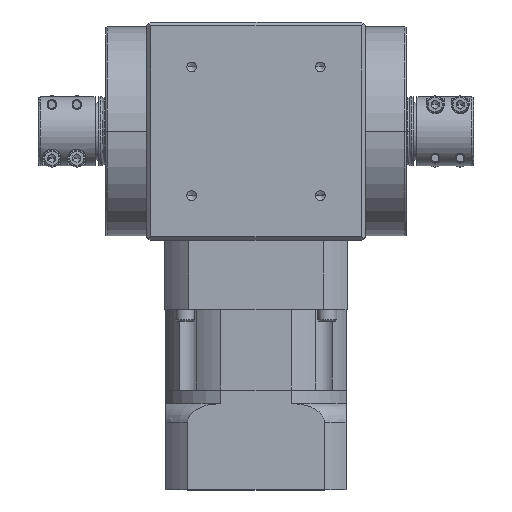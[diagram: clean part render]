
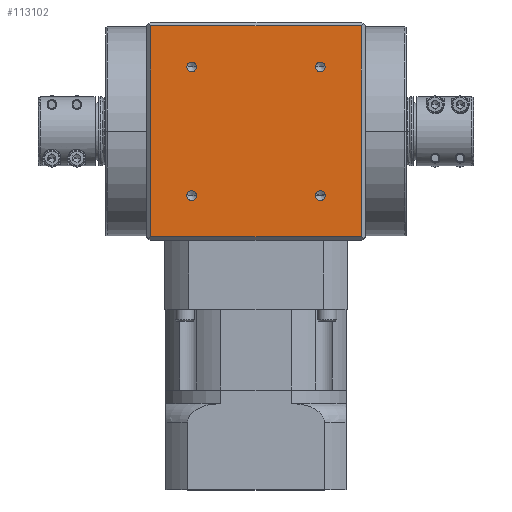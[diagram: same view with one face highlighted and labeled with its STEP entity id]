
A CAD part, top view. The second image highlights one B-rep face of the part: STEP entity #113102.
In plain terms, the highlighted planar face has unit normal (0, 0, 1).
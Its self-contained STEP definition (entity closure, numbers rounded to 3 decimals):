
#334 = EDGE_LOOP ( 'NONE', ( #30027, #54110 ) ) ;
#852 = VERTEX_POINT ( 'NONE', #15056 ) ;
#2384 = VERTEX_POINT ( 'NONE', #109933 ) ;
#2756 = CARTESIAN_POINT ( 'NONE',  ( 33.588, 224.188, 57. ) ) ;
#3900 = CARTESIAN_POINT ( 'NONE',  ( 33.588, 159.512, 57. ) ) ;
#5268 = PLANE ( 'NONE',  #76331 ) ;
#7550 = CIRCLE ( 'NONE', #77358, 2.5 ) ;
#9246 = CIRCLE ( 'NONE', #9945, 2.5 ) ;
#9945 = AXIS2_PLACEMENT_3D ( 'NONE', #30416, #95466, #39792 ) ;
#13232 = DIRECTION ( 'NONE',  ( 0., -1., 0. ) ) ;
#14429 = CARTESIAN_POINT ( 'NONE',  ( 33.588, 159.512, 57. ) ) ;
#14575 = VECTOR ( 'NONE', #76866, 1000. ) ;
#15056 = CARTESIAN_POINT ( 'NONE',  ( -33.588, 157.012, 57. ) ) ;
#15129 = CARTESIAN_POINT ( 'NONE',  ( 54.844, 248.1, 57. ) ) ;
#17346 = DIRECTION ( 'NONE',  ( 0., 1., 0. ) ) ;
#17490 = LINE ( 'NONE', #95550, #14575 ) ;
#19324 = AXIS2_PLACEMENT_3D ( 'NONE', #99307, #43593, #108632 ) ;
#19478 = VERTEX_POINT ( 'NONE', #32780 ) ;
#20537 = EDGE_CURVE ( 'NONE', #2384, #78126, #97069, .T. ) ;
#20770 = VECTOR ( 'NONE', #17346, 1000. ) ;
#21659 = ORIENTED_EDGE ( 'NONE', *, *, #66614, .F. ) ;
#23768 = DIRECTION ( 'NONE',  ( 0., -1., 0. ) ) ;
#24489 = LINE ( 'NONE', #92331, #46302 ) ;
#25750 = ORIENTED_EDGE ( 'NONE', *, *, #20537, .F. ) ;
#25788 = AXIS2_PLACEMENT_3D ( 'NONE', #88421, #32707, #97780 ) ;
#25939 = CARTESIAN_POINT ( 'NONE',  ( -33.588, 159.512, 57. ) ) ;
#27626 = FACE_BOUND ( 'NONE', #104174, .T. ) ;
#28508 = VERTEX_POINT ( 'NONE', #56104 ) ;
#28802 = EDGE_CURVE ( 'NONE', #92398, #119109, #9246, .T. ) ;
#29653 = EDGE_CURVE ( 'NONE', #72559, #102717, #94972, .T. ) ;
#30027 = ORIENTED_EDGE ( 'NONE', *, *, #28802, .F. ) ;
#30416 = CARTESIAN_POINT ( 'NONE',  ( 33.588, 226.688, 57. ) ) ;
#31534 = EDGE_LOOP ( 'NONE', ( #94645, #50379, #108349, #109276 ) ) ;
#32707 = DIRECTION ( 'NONE',  ( 0., 0., 1. ) ) ;
#32780 = CARTESIAN_POINT ( 'NONE',  ( 33.588, 162.012, 57. ) ) ;
#34822 = DIRECTION ( 'NONE',  ( 0., 0., 1. ) ) ;
#35264 = DIRECTION ( 'NONE',  ( 0., -1., 0. ) ) ;
#35344 = CARTESIAN_POINT ( 'NONE',  ( 33.588, 157.012, 57. ) ) ;
#35827 = ORIENTED_EDGE ( 'NONE', *, *, #114291, .F. ) ;
#36010 = CARTESIAN_POINT ( 'NONE',  ( -54.844, 0., 57. ) ) ;
#37452 = CARTESIAN_POINT ( 'NONE',  ( -33.588, 162.012, 57. ) ) ;
#39131 = CIRCLE ( 'NONE', #110333, 2.5 ) ;
#39792 = DIRECTION ( 'NONE',  ( 0., -1., 0. ) ) ;
#40526 = AXIS2_PLACEMENT_3D ( 'NONE', #3900, #68928, #13232 ) ;
#40591 = CIRCLE ( 'NONE', #96614, 2.5 ) ;
#43593 = DIRECTION ( 'NONE',  ( 0., 0., 1. ) ) ;
#44758 = CARTESIAN_POINT ( 'NONE',  ( 54.844, 0., 57. ) ) ;
#46302 = VECTOR ( 'NONE', #55367, 1000. ) ;
#46571 = EDGE_CURVE ( 'NONE', #78126, #2384, #7550, .T. ) ;
#48379 = CARTESIAN_POINT ( 'NONE',  ( -33.588, 229.188, 57. ) ) ;
#49128 = VERTEX_POINT ( 'NONE', #15129 ) ;
#49470 = FACE_OUTER_BOUND ( 'NONE', #31534, .T. ) ;
#49997 = ORIENTED_EDGE ( 'NONE', *, *, #114123, .F. ) ;
#50379 = ORIENTED_EDGE ( 'NONE', *, *, #94807, .F. ) ;
#50710 = EDGE_CURVE ( 'NONE', #78857, #852, #39131, .T. ) ;
#52011 = CARTESIAN_POINT ( 'NONE',  ( -60., 250.1, 57. ) ) ;
#54110 = ORIENTED_EDGE ( 'NONE', *, *, #110493, .F. ) ;
#54629 = CARTESIAN_POINT ( 'NONE',  ( -33.588, 226.688, 57. ) ) ;
#55367 = DIRECTION ( 'NONE',  ( -1., 0., 0. ) ) ;
#55473 = LINE ( 'NONE', #44758, #102018 ) ;
#56104 = CARTESIAN_POINT ( 'NONE',  ( 54.844, 138.1, 57. ) ) ;
#59573 = EDGE_CURVE ( 'NONE', #49128, #28508, #55473, .T. ) ;
#61373 = DIRECTION ( 'NONE',  ( 0., 1., 0. ) ) ;
#64006 = DIRECTION ( 'NONE',  ( 0., -1., 0. ) ) ;
#66614 = EDGE_CURVE ( 'NONE', #852, #78857, #78081, .T. ) ;
#68472 = EDGE_LOOP ( 'NONE', ( #35827, #49997 ) ) ;
#68928 = DIRECTION ( 'NONE',  ( 0., 0., 1. ) ) ;
#72559 = VERTEX_POINT ( 'NONE', #100661 ) ;
#74211 = FACE_BOUND ( 'NONE', #106878, .T. ) ;
#76331 = AXIS2_PLACEMENT_3D ( 'NONE', #52011, #116993, #61373 ) ;
#76613 = CARTESIAN_POINT ( 'NONE',  ( 33.588, 229.188, 57. ) ) ;
#76866 = DIRECTION ( 'NONE',  ( 1., 0., 0. ) ) ;
#77110 = FACE_BOUND ( 'NONE', #334, .T. ) ;
#77358 = AXIS2_PLACEMENT_3D ( 'NONE', #90520, #34822, #99880 ) ;
#78081 = CIRCLE ( 'NONE', #25788, 2.5 ) ;
#78126 = VERTEX_POINT ( 'NONE', #48379 ) ;
#78857 = VERTEX_POINT ( 'NONE', #37452 ) ;
#79462 = DIRECTION ( 'NONE',  ( 0., 0., 1. ) ) ;
#84973 = ORIENTED_EDGE ( 'NONE', *, *, #50710, .F. ) ;
#88421 = CARTESIAN_POINT ( 'NONE',  ( -33.588, 159.512, 57. ) ) ;
#90520 = CARTESIAN_POINT ( 'NONE',  ( -33.588, 226.688, 57. ) ) ;
#90969 = DIRECTION ( 'NONE',  ( 0., 0., 1. ) ) ;
#92331 = CARTESIAN_POINT ( 'NONE',  ( -60., 138.1, 57. ) ) ;
#92398 = VERTEX_POINT ( 'NONE', #2756 ) ;
#92974 = CIRCLE ( 'NONE', #40526, 2.5 ) ;
#93430 = CARTESIAN_POINT ( 'NONE',  ( -54.844, 248.1, 57. ) ) ;
#94645 = ORIENTED_EDGE ( 'NONE', *, *, #59573, .F. ) ;
#94807 = EDGE_CURVE ( 'NONE', #102717, #49128, #17490, .T. ) ;
#94972 = LINE ( 'NONE', #36010, #20770 ) ;
#95466 = DIRECTION ( 'NONE',  ( 0., 0., 1. ) ) ;
#95550 = CARTESIAN_POINT ( 'NONE',  ( -60., 248.1, 57. ) ) ;
#96614 = AXIS2_PLACEMENT_3D ( 'NONE', #14429, #79462, #23768 ) ;
#97069 = CIRCLE ( 'NONE', #107701, 2.5 ) ;
#97739 = VERTEX_POINT ( 'NONE', #35344 ) ;
#97780 = DIRECTION ( 'NONE',  ( 0., -1., 0. ) ) ;
#98936 = FACE_BOUND ( 'NONE', #68472, .T. ) ;
#99307 = CARTESIAN_POINT ( 'NONE',  ( 33.588, 226.688, 57. ) ) ;
#99880 = DIRECTION ( 'NONE',  ( 0., -1., 0. ) ) ;
#100661 = CARTESIAN_POINT ( 'NONE',  ( -54.844, 138.1, 57. ) ) ;
#102018 = VECTOR ( 'NONE', #109797, 1000. ) ;
#102717 = VERTEX_POINT ( 'NONE', #93430 ) ;
#104174 = EDGE_LOOP ( 'NONE', ( #25750, #117323 ) ) ;
#106878 = EDGE_LOOP ( 'NONE', ( #21659, #84973 ) ) ;
#107701 = AXIS2_PLACEMENT_3D ( 'NONE', #54629, #119642, #64006 ) ;
#108349 = ORIENTED_EDGE ( 'NONE', *, *, #29653, .F. ) ;
#108632 = DIRECTION ( 'NONE',  ( 0., -1., 0. ) ) ;
#109276 = ORIENTED_EDGE ( 'NONE', *, *, #115394, .F. ) ;
#109797 = DIRECTION ( 'NONE',  ( 0., -1., 0. ) ) ;
#109933 = CARTESIAN_POINT ( 'NONE',  ( -33.588, 224.188, 57. ) ) ;
#110333 = AXIS2_PLACEMENT_3D ( 'NONE', #25939, #90969, #35264 ) ;
#110493 = EDGE_CURVE ( 'NONE', #119109, #92398, #111986, .T. ) ;
#111986 = CIRCLE ( 'NONE', #19324, 2.5 ) ;
#113102 = ADVANCED_FACE ( 'NONE', ( #27626, #77110, #98936, #74211, #49470 ), #5268, .F. ) ;
#114123 = EDGE_CURVE ( 'NONE', #19478, #97739, #92974, .T. ) ;
#114291 = EDGE_CURVE ( 'NONE', #97739, #19478, #40591, .T. ) ;
#115394 = EDGE_CURVE ( 'NONE', #28508, #72559, #24489, .T. ) ;
#116993 = DIRECTION ( 'NONE',  ( 0., 0., -1. ) ) ;
#117323 = ORIENTED_EDGE ( 'NONE', *, *, #46571, .F. ) ;
#119109 = VERTEX_POINT ( 'NONE', #76613 ) ;
#119642 = DIRECTION ( 'NONE',  ( 0., 0., 1. ) ) ;
